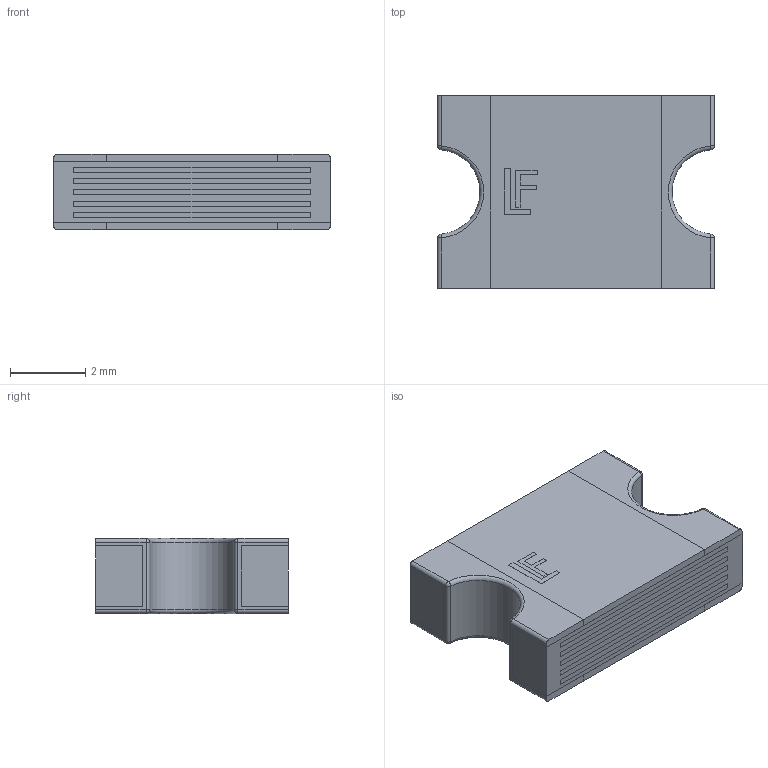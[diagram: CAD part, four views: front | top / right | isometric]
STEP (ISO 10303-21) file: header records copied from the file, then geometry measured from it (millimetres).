
FILE_DESCRIPTION(/* description */ (''),/* implementation_level */ '2;1');
FILE_NAME(/* name */ 'C:\Users\k\Desktop\RES 7.355x5.12x2x1.4x1.125 LittelFuse\1.stp',/* time_stamp */ '2020-01-07T06:42:02+02:00',/* author */ ('k'),/* organization */ (''),/* preprocessor_version */ 'ST-DEVELOPER v15.6',/* originating_system */ 'Autodesk Inventor 2015',/* authorisation */ '');
FILE_SCHEMA (('AUTOMOTIVE_DESIGN { 1 0 10303 214 3 1 1 }'));
Products named in the file (8): 1; 2; 3; 4; 5; 6; 7
Bounding box: 7.36 x 5.12 x 2 mm (x, y, z)
Surface area: 539.7 mm2
Topology: 25 solids, 25 shells, 218 faces, 474 edges, 306 vertices
Faces by surface type: plane 192, cylinder 14, sphere 8, torus 4
Entity records: 3662 total; most frequent: DIRECTION 612, CARTESIAN_POINT 605, ORIENTED_EDGE 564, EDGE_CURVE 282, LINE 242, VECTOR 242, AXIS2_PLACEMENT_3D 185, VERTEX_POINT 178
